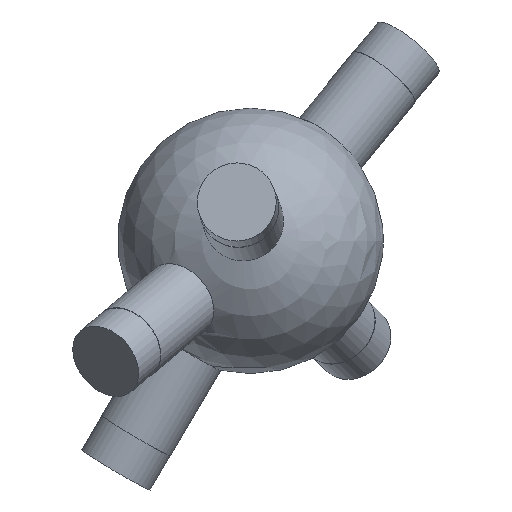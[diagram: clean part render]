
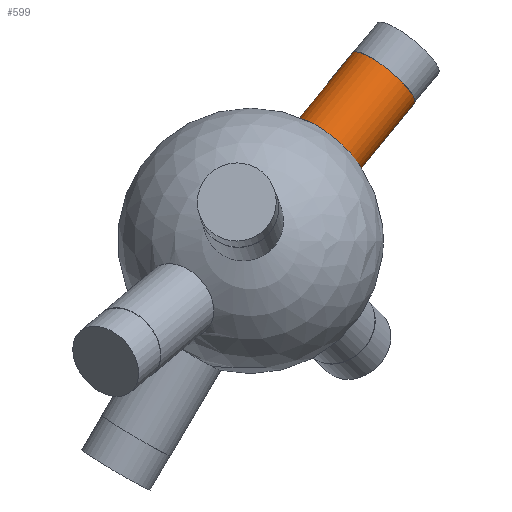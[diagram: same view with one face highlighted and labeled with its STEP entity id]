
A CAD part, top view. The second image highlights one B-rep face of the part: STEP entity #599.
In plain terms, the highlighted cylindrical face has radius 6 mm (diameter 12 mm), a full revolution.
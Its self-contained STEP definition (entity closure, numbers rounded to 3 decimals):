
#33 = SPHERICAL_SURFACE('',#34,20.);
#34 = AXIS2_PLACEMENT_3D('',#35,#36,#37);
#35 = CARTESIAN_POINT('',(0.,0.,0.));
#36 = DIRECTION('',(0.,0.,1.));
#37 = DIRECTION('',(1.,0.,-0.));
#181 = EDGE_CURVE('',#182,#182,#184,.T.);
#182 = VERTEX_POINT('',#183);
#183 = CARTESIAN_POINT('',(16.371,10.563,-4.519
    ));
#184 = SURFACE_CURVE('',#185,(#190,#252),.PCURVE_S1.);
#185 = CIRCLE('',#186,6.);
#186 = AXIS2_PLACEMENT_3D('',#187,#188,#189);
#187 = CARTESIAN_POINT('',(11.723,14.358,
    -4.519));
#188 = DIRECTION('',(0.614,0.753,-0.237));
#189 = DIRECTION('',(-0.775,0.632,0.)
  );
#190 = PCURVE('',#33,#191);
#191 = DEFINITIONAL_REPRESENTATION('',(#192),#251);
#192 = B_SPLINE_CURVE_WITH_KNOTS('',8,(#193,#194,#195,#196,#197,#198,
    #199,#200,#201,#202,#203,#204,#205,#206,#207,#208,#209,#210,#211,
    #212,#213,#214,#215,#216,#217,#218,#219,#220,#221,#222,#223,#224,
    #225,#226,#227,#228,#229,#230,#231,#232,#233,#234,#235,#236,#237,
    #238,#239,#240,#241,#242,#243,#244,#245,#246,#247,#248,#249,#250),
  .UNSPECIFIED.,.F.,.F.,(9,7,7,7,7,7,7,7,9),(3.142,
    3.927,4.614,5.216,6.268,
    7.057,7.649,8.537,9.425),
  .UNSPECIFIED.);
#193 = CARTESIAN_POINT('',(0.573,-0.228));
#194 = CARTESIAN_POINT('',(0.571,-0.257));
#195 = CARTESIAN_POINT('',(0.572,-0.287));
#196 = CARTESIAN_POINT('',(0.576,-0.316));
#197 = CARTESIAN_POINT('',(0.584,-0.345));
#198 = CARTESIAN_POINT('',(0.595,-0.373));
#199 = CARTESIAN_POINT('',(0.609,-0.4));
#200 = CARTESIAN_POINT('',(0.627,-0.424));
#201 = CARTESIAN_POINT('',(0.667,-0.466));
#202 = CARTESIAN_POINT('',(0.688,-0.484));
#203 = CARTESIAN_POINT('',(0.711,-0.5));
#204 = CARTESIAN_POINT('',(0.737,-0.514));
#205 = CARTESIAN_POINT('',(0.764,-0.525));
#206 = CARTESIAN_POINT('',(0.792,-0.534));
#207 = CARTESIAN_POINT('',(0.822,-0.539));
#208 = CARTESIAN_POINT('',(0.878,-0.545));
#209 = CARTESIAN_POINT('',(0.904,-0.545));
#210 = CARTESIAN_POINT('',(0.931,-0.543));
#211 = CARTESIAN_POINT('',(0.957,-0.539));
#212 = CARTESIAN_POINT('',(0.982,-0.533));
#213 = CARTESIAN_POINT('',(1.007,-0.524));
#214 = CARTESIAN_POINT('',(1.03,-0.514));
#215 = CARTESIAN_POINT('',(1.09,-0.481));
#216 = CARTESIAN_POINT('',(1.123,-0.454));
#217 = CARTESIAN_POINT('',(1.152,-0.423));
#218 = CARTESIAN_POINT('',(1.173,-0.388));
#219 = CARTESIAN_POINT('',(1.189,-0.351));
#220 = CARTESIAN_POINT('',(1.198,-0.312));
#221 = CARTESIAN_POINT('',(1.202,-0.272));
#222 = CARTESIAN_POINT('',(1.198,-0.203));
#223 = CARTESIAN_POINT('',(1.193,-0.174));
#224 = CARTESIAN_POINT('',(1.184,-0.145));
#225 = CARTESIAN_POINT('',(1.173,-0.117));
#226 = CARTESIAN_POINT('',(1.159,-0.09));
#227 = CARTESIAN_POINT('',(1.143,-0.066));
#228 = CARTESIAN_POINT('',(1.124,-0.043));
#229 = CARTESIAN_POINT('',(1.086,-0.007));
#230 = CARTESIAN_POINT('',(1.069,0.007));
#231 = CARTESIAN_POINT('',(1.051,0.02));
#232 = CARTESIAN_POINT('',(1.032,0.031));
#233 = CARTESIAN_POINT('',(1.011,0.041));
#234 = CARTESIAN_POINT('',(0.99,0.049));
#235 = CARTESIAN_POINT('',(0.969,0.055));
#236 = CARTESIAN_POINT('',(0.915,0.066));
#237 = CARTESIAN_POINT('',(0.881,0.069));
#238 = CARTESIAN_POINT('',(0.847,0.067));
#239 = CARTESIAN_POINT('',(0.814,0.061));
#240 = CARTESIAN_POINT('',(0.782,0.051));
#241 = CARTESIAN_POINT('',(0.751,0.038));
#242 = CARTESIAN_POINT('',(0.722,0.021));
#243 = CARTESIAN_POINT('',(0.669,-0.02));
#244 = CARTESIAN_POINT('',(0.645,-0.044));
#245 = CARTESIAN_POINT('',(0.625,-0.07));
#246 = CARTESIAN_POINT('',(0.607,-0.099));
#247 = CARTESIAN_POINT('',(0.593,-0.13));
#248 = CARTESIAN_POINT('',(0.582,-0.162));
#249 = CARTESIAN_POINT('',(0.576,-0.195));
#250 = CARTESIAN_POINT('',(0.573,-0.228));
#251 = ( GEOMETRIC_REPRESENTATION_CONTEXT(2) 
PARAMETRIC_REPRESENTATION_CONTEXT() REPRESENTATION_CONTEXT('2D SPACE',''
  ) );
#252 = PCURVE('',#253,#258);
#253 = CYLINDRICAL_SURFACE('',#254,6.);
#254 = AXIS2_PLACEMENT_3D('',#255,#256,#257);
#255 = CARTESIAN_POINT('',(0.,0.,0.));
#256 = DIRECTION('',(0.614,0.753,-0.237));
#257 = DIRECTION('',(0.775,-0.632,0.));
#258 = DEFINITIONAL_REPRESENTATION('',(#259),#263);
#259 = LINE('',#260,#261);
#260 = CARTESIAN_POINT('',(-3.142,19.079));
#261 = VECTOR('',#262,1.);
#262 = DIRECTION('',(1.,0.));
#263 = ( GEOMETRIC_REPRESENTATION_CONTEXT(2) 
PARAMETRIC_REPRESENTATION_CONTEXT() REPRESENTATION_CONTEXT('2D SPACE',''
  ) );
#599 = ADVANCED_FACE('',(#600),#253,.T.);
#600 = FACE_BOUND('',#601,.T.);
#601 = EDGE_LOOP('',(#602,#625,#652,#653));
#602 = ORIENTED_EDGE('',*,*,#603,.T.);
#603 = EDGE_CURVE('',#182,#604,#606,.T.);
#604 = VERTEX_POINT('',#605);
#605 = CARTESIAN_POINT('',(24.664,20.719,
    -7.715));
#606 = SEAM_CURVE('',#607,(#611,#618),.PCURVE_S1.);
#607 = LINE('',#608,#609);
#608 = CARTESIAN_POINT('',(4.648,-3.795,
    0.));
#609 = VECTOR('',#610,1.);
#610 = DIRECTION('',(0.614,0.753,-0.237));
#611 = PCURVE('',#253,#612);
#612 = DEFINITIONAL_REPRESENTATION('',(#613),#617);
#613 = LINE('',#614,#615);
#614 = CARTESIAN_POINT('',(6.283,-0.));
#615 = VECTOR('',#616,1.);
#616 = DIRECTION('',(0.,1.));
#617 = ( GEOMETRIC_REPRESENTATION_CONTEXT(2) 
PARAMETRIC_REPRESENTATION_CONTEXT() REPRESENTATION_CONTEXT('2D SPACE',''
  ) );
#618 = PCURVE('',#253,#619);
#619 = DEFINITIONAL_REPRESENTATION('',(#620),#624);
#620 = LINE('',#621,#622);
#621 = CARTESIAN_POINT('',(0.,-0.));
#622 = VECTOR('',#623,1.);
#623 = DIRECTION('',(0.,1.));
#624 = ( GEOMETRIC_REPRESENTATION_CONTEXT(2) 
PARAMETRIC_REPRESENTATION_CONTEXT() REPRESENTATION_CONTEXT('2D SPACE',''
  ) );
#625 = ORIENTED_EDGE('',*,*,#626,.F.);
#626 = EDGE_CURVE('',#604,#604,#627,.T.);
#627 = SURFACE_CURVE('',#628,(#633,#640),.PCURVE_S1.);
#628 = CIRCLE('',#629,6.);
#629 = AXIS2_PLACEMENT_3D('',#630,#631,#632);
#630 = CARTESIAN_POINT('',(20.016,24.514,
    -7.715));
#631 = DIRECTION('',(0.614,0.753,-0.237));
#632 = DIRECTION('',(0.775,-0.632,0.));
#633 = PCURVE('',#253,#634);
#634 = DEFINITIONAL_REPRESENTATION('',(#635),#639);
#635 = LINE('',#636,#637);
#636 = CARTESIAN_POINT('',(0.,32.575));
#637 = VECTOR('',#638,1.);
#638 = DIRECTION('',(1.,0.));
#639 = ( GEOMETRIC_REPRESENTATION_CONTEXT(2) 
PARAMETRIC_REPRESENTATION_CONTEXT() REPRESENTATION_CONTEXT('2D SPACE',''
  ) );
#640 = PCURVE('',#641,#646);
#641 = PLANE('',#642);
#642 = AXIS2_PLACEMENT_3D('',#643,#644,#645);
#643 = CARTESIAN_POINT('',(20.016,24.514,
    -7.715));
#644 = DIRECTION('',(0.614,0.753,-0.237));
#645 = DIRECTION('',(0.775,-0.632,0.));
#646 = DEFINITIONAL_REPRESENTATION('',(#647),#651);
#647 = CIRCLE('',#648,6.);
#648 = AXIS2_PLACEMENT_2D('',#649,#650);
#649 = CARTESIAN_POINT('',(0.,0.));
#650 = DIRECTION('',(1.,0.));
#651 = ( GEOMETRIC_REPRESENTATION_CONTEXT(2) 
PARAMETRIC_REPRESENTATION_CONTEXT() REPRESENTATION_CONTEXT('2D SPACE',''
  ) );
#652 = ORIENTED_EDGE('',*,*,#603,.F.);
#653 = ORIENTED_EDGE('',*,*,#181,.T.);
